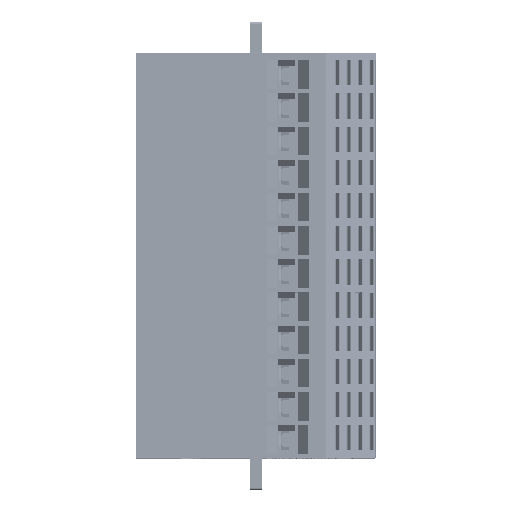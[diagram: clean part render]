
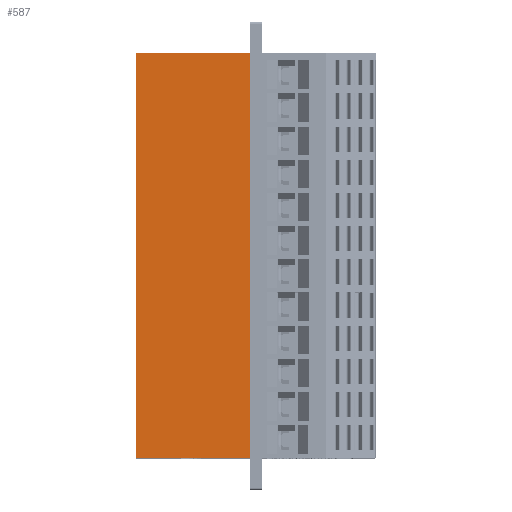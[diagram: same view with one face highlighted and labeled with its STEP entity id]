
A CAD part, top view. The second image highlights one B-rep face of the part: STEP entity #587.
In plain terms, the highlighted planar face has unit normal (0, 0, 1).
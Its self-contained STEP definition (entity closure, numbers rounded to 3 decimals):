
#587=ADVANCED_FACE('',(#173420),#173422,.T.);
#173420=FACE_BOUND('',#173421,.T.);
#173421=EDGE_LOOP('',(#311521,#311522,#311523,#311524));
#173422=PLANE('',#173423);
#173423=AXIS2_PLACEMENT_3D('',#173424,#173425,#173426);
#173424=CARTESIAN_POINT('',(0.,-86.9,9.35));
#173425=DIRECTION('',(0.,0.,1.));
#173426=DIRECTION('',(1.,0.,0.));
#311521=ORIENTED_EDGE('',*,*,#421539,.T.);
#311522=ORIENTED_EDGE('',*,*,#421538,.T.);
#311523=ORIENTED_EDGE('',*,*,#421540,.F.);
#311524=ORIENTED_EDGE('',*,*,#421541,.F.);
#421538=EDGE_CURVE('',#476924,#476926,#476928,.T.);
#421539=EDGE_CURVE('',#476929,#476924,#476930,.T.);
#421540=EDGE_CURVE('',#476931,#476926,#476932,.T.);
#421541=EDGE_CURVE('',#476929,#476931,#476933,.T.);
#476924=VERTEX_POINT('',#569264);
#476926=VERTEX_POINT('',#569268);
#476928=LINE('',#569272,#569273);
#476929=VERTEX_POINT('',#569275);
#476930=LINE('',#569276,#569277);
#476931=VERTEX_POINT('',#569279);
#476932=LINE('',#569280,#569281);
#476933=LINE('',#569283,#569284);
#569264=CARTESIAN_POINT('',(27.,-86.9,9.35));
#569268=CARTESIAN_POINT('',(27.,9.5,9.35));
#569272=CARTESIAN_POINT('',(27.,-86.9,9.35));
#569273=VECTOR('',#569274,1.);
#569274=DIRECTION('',(0.,1.,0.));
#569275=CARTESIAN_POINT('',(0.,-86.9,9.35));
#569276=CARTESIAN_POINT('',(0.,-86.9,9.35));
#569277=VECTOR('',#569278,1.);
#569278=DIRECTION('',(1.,0.,0.));
#569279=CARTESIAN_POINT('',(0.,9.5,9.35));
#569280=CARTESIAN_POINT('',(0.,9.5,9.35));
#569281=VECTOR('',#569282,1.);
#569282=DIRECTION('',(1.,0.,0.));
#569283=CARTESIAN_POINT('',(0.,-86.9,9.35));
#569284=VECTOR('',#569285,1.);
#569285=DIRECTION('',(0.,1.,0.));
